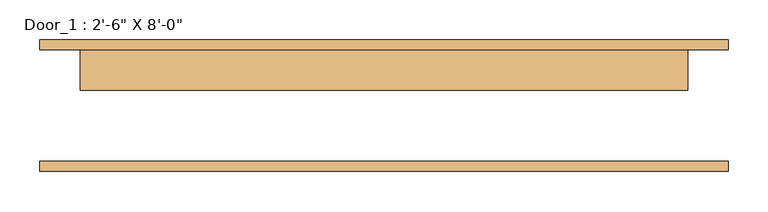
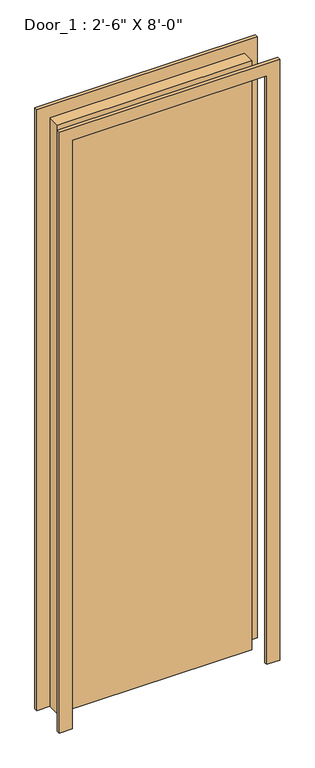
"""IFC4 building model written with IfcOpenShell, lengths in millimetres: door geometry."""

from ifc_helpers import new_model, si_unit, frame, origin, origin_with_axes, place, context, project, spatial, polyline, outline, extrude, source, transform, mapped, element, save


def door_212f846a(model_context):
    return source(origin(), model_context, "Body", "SweptSolid", [
        extrude(outline(polyline([(2489.2, -431.8), (0.0, -431.8), (0.0, -381.0), (2438.4, -381.0), (2438.4, 381.0), (0.0, 381.0), (0.0, 431.8), (2489.2, 431.8), (2489.2, -431.8)])), frame((0.0, 69.85, 0.0), z_axis=(0.0, 1.0, 0.0), x_axis=(0.0, 0.0, 1.0)), (0.0, 0.0, 1.0), 12.7),
        extrude(outline(polyline([(2489.2, 431.8), (2489.2, -431.8), (0.0, -431.8), (0.0, -381.0), (2438.4, -381.0), (2438.4, 381.0), (0.0, 381.0), (0.0, 431.8), (2489.2, 431.8)])), frame((0.0, -82.55, 0.0), z_axis=(0.0, 1.0, 0.0), x_axis=(0.0, 0.0, 1.0)), (0.0, 0.0, 1.0), 12.7),
        extrude(outline(polyline([(381.0, 19.05), (-381.0, 19.05), (-381.0, 69.85), (381.0, 69.85), (381.0, 19.05)])), origin_with_axes(), (0.0, 0.0, 1.0), 2438.4),
    ])


if __name__ == "__main__":
    model = new_model("IFC4")
    model_context = context("Model", 3, world=origin())
    ifc_project = project(units=[si_unit("LENGTHUNIT", "METRE", prefix="MILLI")], contexts=[model_context])
    site = spatial("IfcSite", under=ifc_project)
    building = spatial("IfcBuilding", under=site)
    placement = place(None, origin())
    door_shape = door_212f846a(model_context)
    element("IfcDoor", 1, ObjectType="Door_1 : 2'-6\" X 8'-0\"", at=placement, inside=building, context=model_context, shape_type="MappedRepresentation", body=[
        mapped(door_shape, transform((0.0, 0.0, 0.0), x_axis=(1.0, 0.0, 0.0), y_axis=(0.0, 1.0, 0.0), z_axis=(0.0, 0.0, 1.0))),
    ])
    save(model, "model.ifc")
